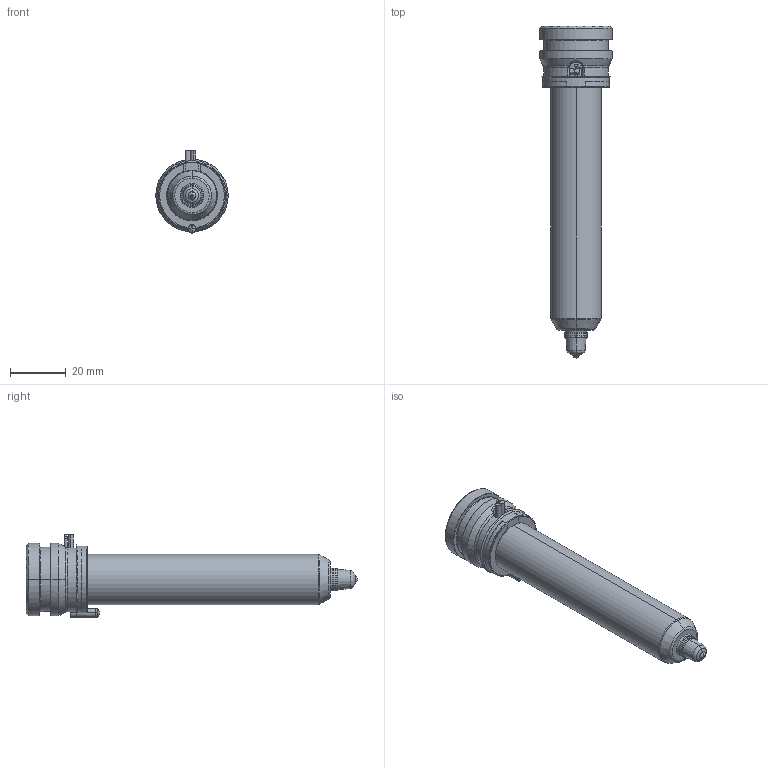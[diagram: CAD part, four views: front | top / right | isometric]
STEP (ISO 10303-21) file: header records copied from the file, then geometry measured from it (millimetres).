
FILE_DESCRIPTION((''),'2;1');
FILE_NAME('TH18101-A-1B50-PK-JG','2023-12-14T',('umhib'),('Thermoplay S.p.A.'),'PRO/ENGINEER BY PARAMETRIC TECHNOLOGY CORPORATION, 2017170','PRO/ENGINEER BY PARAMETRIC TECHNOLOGY CORPORATION, 2017170','');
FILE_SCHEMA(('CONFIG_CONTROL_DESIGN'));
Length unit declared in the file: millimetre
Products named in the file (1): TH18101-A-1B50-PK-JG
Bounding box: 26 x 119 x 29.5 mm (x, y, z)
Volume: 24160.6 mm3; surface area: 17690.9 mm2
Topology: 1 solids, 2 shells, 394 faces, 1026 edges, 637 vertices
Faces by surface type: cylinder 151, plane 85, cone 66, torus 54, bspline 24, sphere 12, extrusion 2
Entity records: 17998 total; most frequent: CARTESIAN_POINT 6175, ORIENTED_EDGE 2028, DIRECTION 2015, EDGE_CURVE 1016, AXIS2_PLACEMENT_3D 808, VERTEX_POINT 637, CIRCLE 439, EDGE_LOOP 414
